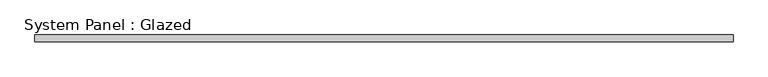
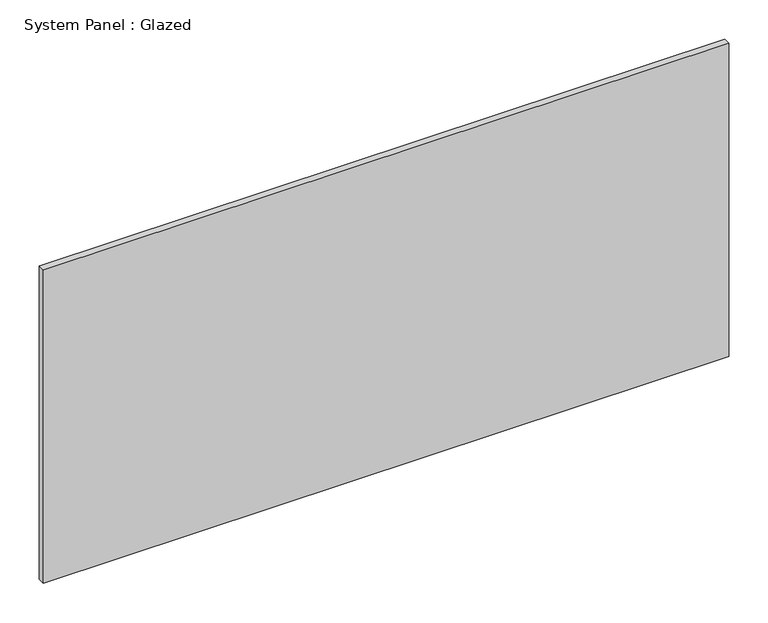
"""IFC4 building model written with IfcOpenShell, lengths in millimetres: plate geometry, System Panel : Glazed."""

from ifc_helpers import new_model, si_unit, origin, origin_with_axes, place, context, project, spatial, polyline, outline, extrude, source, transform, mapped, element, save


def system_panel_glazed_7bde68a8(model_context):
    return source(origin(), model_context, "Body", "SweptSolid", [
        extrude(outline(polyline([(504.8832342, -5.0), (-504.8832342, -5.0), (-504.8832342, 5.0), (504.8832342, 5.0), (504.8832342, -5.0)])), origin_with_axes(), (0.0, 0.0, 1.0), 488.3333333),
    ])


if __name__ == "__main__":
    model = new_model("IFC4")
    model_context = context("Model", 3, world=origin())
    ifc_project = project(units=[si_unit("LENGTHUNIT", "METRE", prefix="MILLI")], contexts=[model_context])
    site = spatial("IfcSite", under=ifc_project)
    building = spatial("IfcBuilding", under=site)
    placement = place(None, origin())
    system_panel_glazed_shape = system_panel_glazed_7bde68a8(model_context)
    element("IfcPlate", 1, ObjectType="System Panel : Glazed", at=placement, inside=building, context=model_context, shape_type="MappedRepresentation", body=[
        mapped(system_panel_glazed_shape, transform((0.0, 0.0, 0.0), x_axis=(1.0, 0.0, 0.0), y_axis=(0.0, 1.0, 0.0), z_axis=(0.0, 0.0, 1.0))),
    ])
    save(model, "model.ifc")
